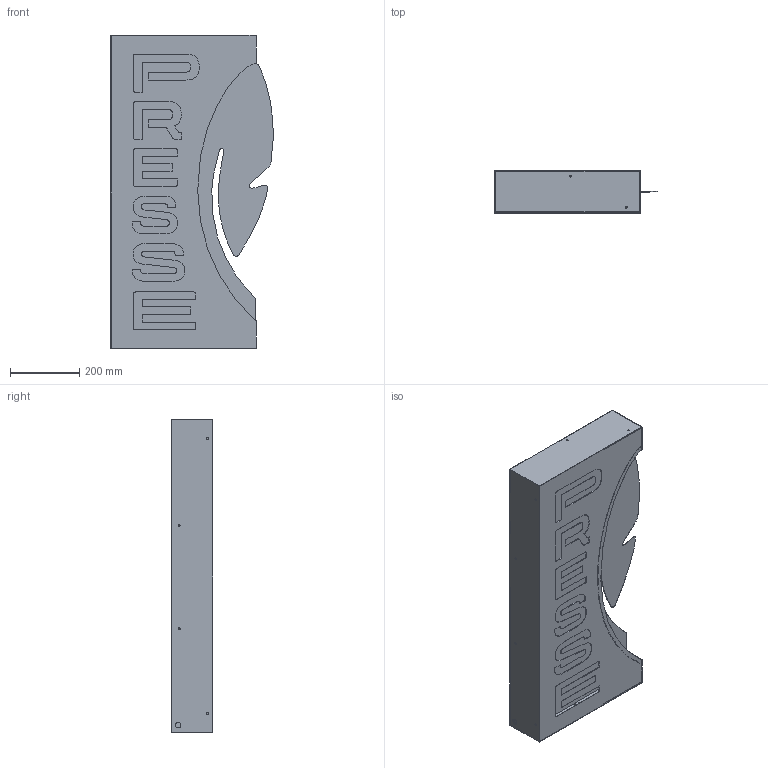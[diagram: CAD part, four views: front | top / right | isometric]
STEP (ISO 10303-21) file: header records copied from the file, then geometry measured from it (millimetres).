
FILE_DESCRIPTION(/* description */ (''),/* implementation_level */ '2;1');
FILE_NAME(/* name */ 'PLUME-FACADE',/* time_stamp */ '2025-03-11T18:47:49+01:00',/* author */ (''),/* organization */ (''),/* preprocessor_version */ 'ST-DEVELOPER v16.5',/* originating_system */ '',/* authorisation */ '');
FILE_SCHEMA (('AUTOMOTIVE_DESIGN'));
Length unit declared in the file: millimetre
Products named in the file (1): Document
Bounding box: 468.73 x 120 x 904 mm (x, y, z)
Volume: 2578727 mm3; surface area: 2607723.6 mm2
Topology: 7 solids, 7 shells, 334 faces, 951 edges, 631 vertices
Faces by surface type: bspline 270, plane 64
Entity records: 18069 total; most frequent: CARTESIAN_POINT 12120, ORIENTED_EDGE 1902, EDGE_CURVE 951, VERTEX_POINT 631, B_SPLINE_CURVE_WITH_KNOTS 613, EDGE_LOOP 540, ADVANCED_FACE 334, FACE_OUTER_BOUND 334
